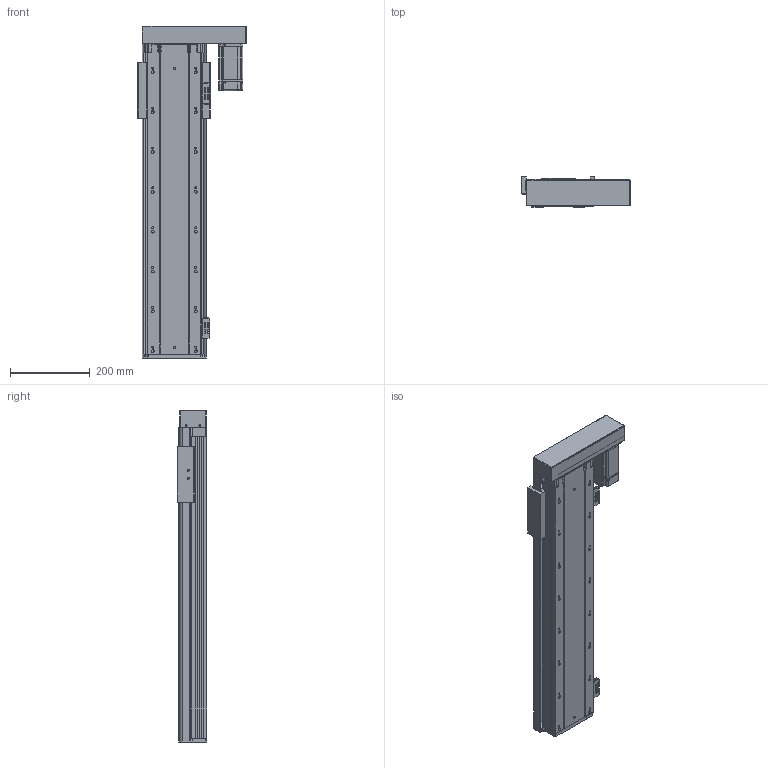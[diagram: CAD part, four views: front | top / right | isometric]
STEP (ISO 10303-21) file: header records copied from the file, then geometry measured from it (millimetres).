
FILE_DESCRIPTION (( 'STEP AP203' ), '1' );
FILE_NAME ('RY140FB-L2010-300-RK.SLDASM_550.step', '2021-02-23T02:40:59', ( '盈信电脑' ), ( '东莞市道滘镇水果街19号' ), 'SwSTEP 2.0', 'SolidWorks 2012', '' );
FILE_SCHEMA (( 'CONFIG_CONTROL_DESIGN' ));
Length unit declared in the file: millimetre
Products named in the file (17): RY140FB-L2010-300-RK.SLDASM_550; RY140FB-左右折电机安装板; RY140FB-酘衵殏萇儂欶; RY140直线电机感应器674光电安装座; RY140-674嫖萇耀輸; RY140FB-覜茼え; RY140FB-20佪裝臏賑輸; RY140FB-300蛌殏奻裔啣-RK_550; 覜茼ん674; 侂狟400W侜督萇儂; 滅袉蝶18-10; 15; RY140FB-转折电机端支撑座(7002); RY140FB-綴裔啣; RY140FB-300蛌殏倰第菁釱-RK_550; 滅袉蝶18-24
Assembly tree (20 placements, depth 3):
  RY140FB-L2010-300-RK.SLDASM_550
    RY140FB-300蛌殏倰第菁釱-RK_550
    RY140FB-綴裔啣
    滅袉蝶18-24  x2
    滅袉蝶18-10
    RY140FB-转折电机端支撑座(7002)
    侂狟400W侜督萇儂
      15
    RY140FB-20佪裝臏賑輸
    RY140FB-300蛌殏奻裔啣-RK_550
    RY140-674嫖萇耀輸
      覜茼ん674
      RY140直线电机感应器674光电安装座
    RY140-674嫖萇耀輸
      覜茼ん674  x2
      RY140直线电机感应器674光电安装座
    RY140FB-覜茼え
    RY140FB-左右折电机安装板
    RY140FB-酘衵殏萇儂欶
Bounding box: 271.3 x 75 x 833.2 mm (x, y, z)
Volume: 3569473.3 mm3; surface area: 1171665.2 mm2
Topology: 17 solids, 17 shells, 1778 faces, 4867 edges, 3099 vertices
Faces by surface type: cylinder 861, plane 727, cone 162, bspline 28
Entity records: 53601 total; most frequent: CARTESIAN_POINT 10787, DIRECTION 8692, ORIENTED_EDGE 8458, EDGE_CURVE 4229, AXIS2_PLACEMENT_3D 3140, VERTEX_POINT 2767, VECTOR 2412, LINE 2412
